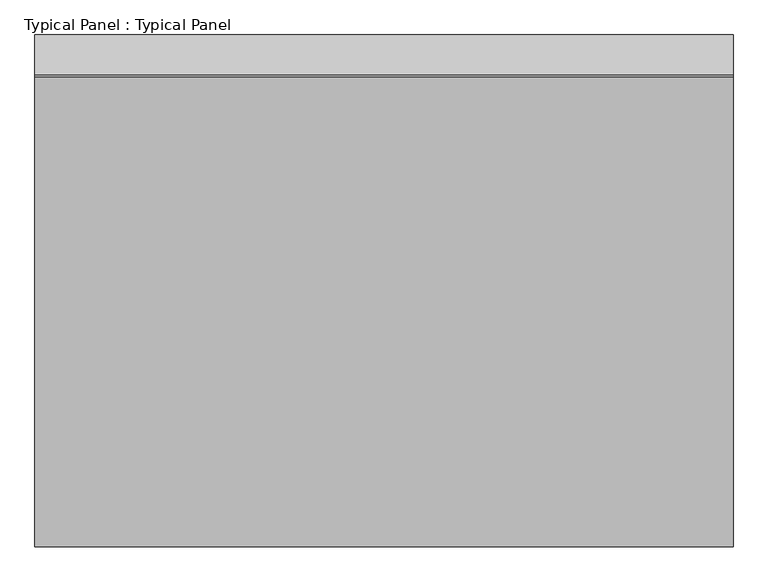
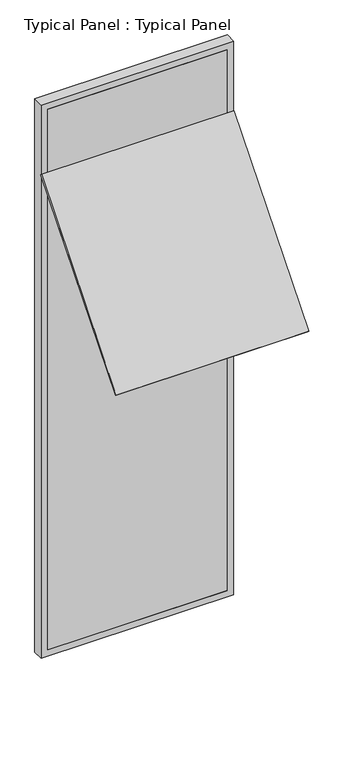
"""IFC4 building model written with IfcOpenShell, lengths in millimetres: plate geometry, Typical Panel : Typical Panel."""

from ifc_helpers import new_model, si_unit, frame, origin, place, context, project, spatial, polyline, outline, extrude, source, transform, mapped, element, save


def typical_panel_typical_panel_6d4a68ef(model_context):
    return source(origin(), model_context, "Body", "SweptSolid", [
        extrude(outline(polyline([(0.0, -10.0000001), (0.0, 0.0), (1317.1916898, 0.0), (1317.1916898, -10.0000001), (0.0, -10.0000001)])), frame((658.5958449, -892.0469014, 2442.8586685), z_axis=(0.0, 0.642787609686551, 0.7660444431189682), x_axis=(-1.0, 0.0, 0.0)), (0.0, 0.0, 1.0), 1380.0),
        extrude(outline(polyline([(0.0, -658.5958449), (0.0, 658.5958449), (4000.0, 658.5958449), (4000.0, -658.5958449), (0.0, -658.5958449)]), holes=[polyline([(45.0, 613.5958449), (45.0, -613.5958449), (3955.0, -613.5958449), (3955.0, 613.5958449), (45.0, 613.5958449)])]), frame((0.0, -1.5797986, 0.0), z_axis=(0.0, 1.0, 0.0), x_axis=(0.0, 0.0, 1.0)), (0.0, 0.0, 1.0), 75.0),
        extrude(outline(polyline([(613.5958449, -1.5797986), (-613.5958449, -1.5797986), (-613.5958449, 13.4202014), (613.5958449, 13.4202014), (613.5958449, -1.5797986)])), frame((0.0, 0.0, 45.0), z_axis=(0.0, 0.0, 1.0), x_axis=(1.0, 0.0, 0.0)), (0.0, 0.0, 1.0), 3910.0),
    ])


if __name__ == "__main__":
    model = new_model("IFC4")
    model_context = context("Model", 3, world=origin())
    ifc_project = project(units=[si_unit("LENGTHUNIT", "METRE", prefix="MILLI")], contexts=[model_context])
    site = spatial("IfcSite", under=ifc_project)
    building = spatial("IfcBuilding", under=site)
    placement = place(None, origin())
    typical_panel_typical_panel_shape = typical_panel_typical_panel_6d4a68ef(model_context)
    element("IfcPlate", 1, ObjectType="Typical Panel : Typical Panel", at=placement, inside=building, context=model_context, shape_type="MappedRepresentation", body=[
        mapped(typical_panel_typical_panel_shape, transform((0.0, 0.0, 0.0), x_axis=(1.0, 0.0, 0.0), y_axis=(0.0, 1.0, 0.0), z_axis=(0.0, 0.0, 1.0))),
    ])
    save(model, "model.ifc")
